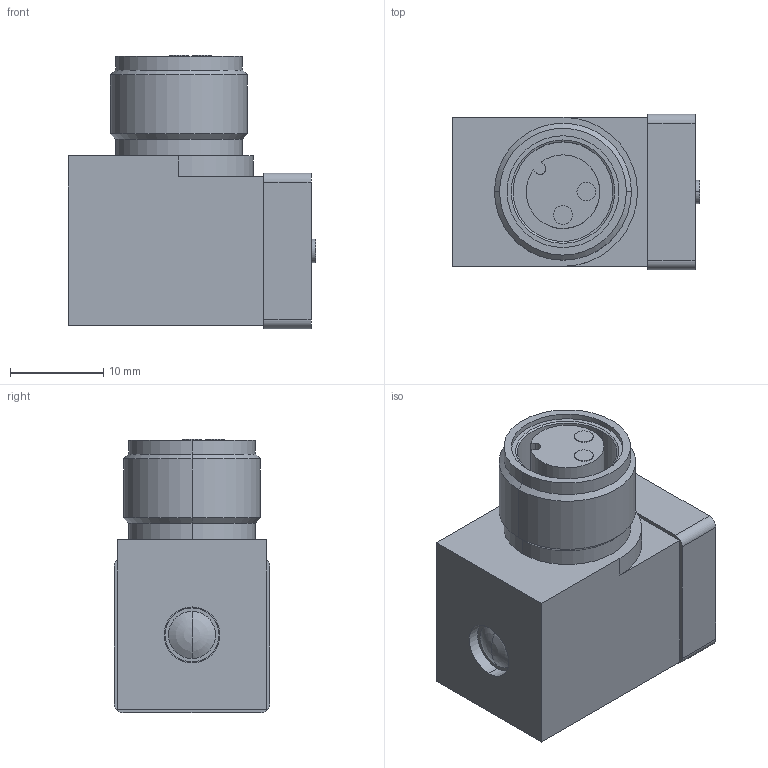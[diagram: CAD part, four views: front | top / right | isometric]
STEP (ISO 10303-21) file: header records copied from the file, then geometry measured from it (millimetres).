
FILE_DESCRIPTION((''),'2;1');
FILE_NAME('R412009553','2024-05-09T15:57:22',('THD3HC'),(''),'CREO PARAMETRIC BY PTC INC, 2023092','CREO PARAMETRIC BY PTC INC, 2023092','');
FILE_SCHEMA(('CONFIG_CONTROL_DESIGN','SHAPE_APPEARANCE_LAYERS_GROUPS'));
Length unit declared in the file: millimetre
Products named in the file (1): R412009553
Bounding box: 26.6 x 16.7 x 29.35 mm (x, y, z)
Volume: 8744.8 mm3; surface area: 3469 mm2
Topology: 1 solids, 1 shells, 58 faces, 143 edges, 96 vertices
Faces by surface type: cylinder 27, plane 23, cone 6, sphere 2
Entity records: 2660 total; most frequent: DIRECTION 324, CARTESIAN_POINT 295, ORIENTED_EDGE 282, PRESENTATION_STYLE_ASSIGNMENT 180, STYLED_ITEM 146, CURVE_STYLE 141, EDGE_CURVE 141, AXIS2_PLACEMENT_3D 125
